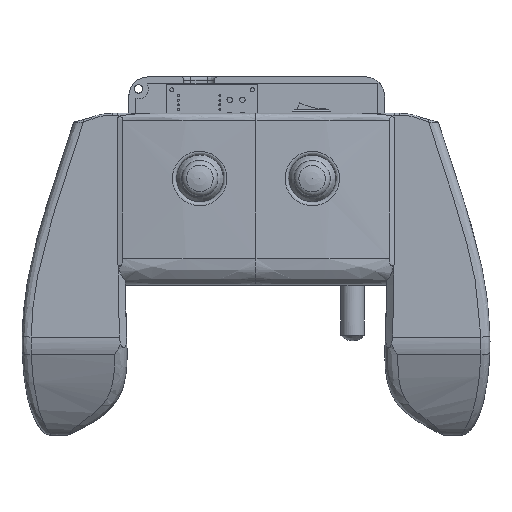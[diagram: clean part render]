
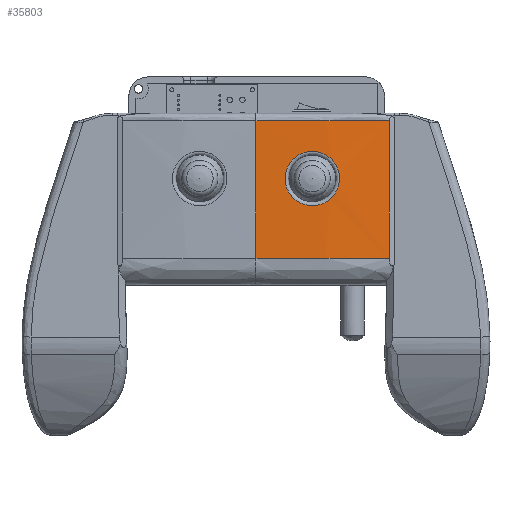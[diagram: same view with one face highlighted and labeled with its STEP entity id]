
A CAD part, front view. The second image highlights one B-rep face of the part: STEP entity #35803.
In plain terms, the highlighted free-form (B-spline) face has degree [3, 1] with [9, 2] control points.
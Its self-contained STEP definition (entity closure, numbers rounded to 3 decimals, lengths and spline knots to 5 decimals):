
#108=B_SPLINE_SURFACE_WITH_KNOTS('',3,1,((#65114,#65115),(#65116,#65117),
(#65118,#65119),(#65120,#65121),(#65122,#65123),(#65124,#65125),(#65126,
#65127),(#65128,#65129),(#65130,#65131)),.SURF_OF_LINEAR_EXTRUSION.,.F.,
 .F.,.F.,(4,1,1,1,1,1,4),(2,2),(0.59359,0.61899,0.6444,
0.6952,0.7968,0.8984,1.),(0.,1.),
 .UNSPECIFIED.);
#677=B_SPLINE_CURVE_WITH_KNOTS('',3,(#65132,#65133,#65134,#65135,#65136,
#65137,#65138,#65139,#65140,#65141,#65142,#65143,#65144,#65145,#65146,#65147,
#65148,#65149,#65150,#65151,#65152,#65153,#65154,#65155,#65156,#65157,#65158,
#65159,#65160,#65161,#65162,#65163,#65164,#65165,#65166),.UNSPECIFIED.,
 .T.,.F.,(1,1,1,1,1,1,1,1,1,1,1,1,1,1,1,1,1,1,1,1,1,1,1,1,1,1,1,1,1,1,1,
1,1,1,1,1,1,1,1),(-0.09704,-0.06579,-0.03289,
0.,0.02969,0.05938,0.09055,0.12172,0.15296,0.18421,
0.21546,0.24671,0.27796,0.30921,0.34046,
0.37171,0.40296,0.43421,0.46546,
0.49671,0.52796,0.55921,0.59046,
0.62171,0.65296,0.68421,0.71546,0.74671,
0.77796,0.80921,0.84046,0.87171,
0.90296,0.93421,0.96711,1.,1.02969,1.05938,
1.09055),.UNSPECIFIED.);
#678=B_SPLINE_CURVE_WITH_KNOTS('',3,(#65171,#65172,#65173,#65174,#65175,
#65176,#65177,#65178,#65179),.UNSPECIFIED.,.F.,.F.,(4,1,1,1,1,1,4),(0.,
0.0625,0.125,0.25,0.5,0.75,1.),.UNSPECIFIED.);
#679=B_SPLINE_CURVE_WITH_KNOTS('',3,(#65180,#65181,#65182,#65183,#65184,
#65185,#65186,#65187,#65188),.UNSPECIFIED.,.F.,.F.,(4,1,1,1,1,1,4),(0.,
0.25,0.5,0.75,0.875,0.9375,1.),.UNSPECIFIED.);
#10260=ORIENTED_EDGE('',*,*,#16647,.T.);
#10261=ORIENTED_EDGE('',*,*,#16648,.T.);
#10262=ORIENTED_EDGE('',*,*,#16649,.T.);
#10263=ORIENTED_EDGE('',*,*,#16597,.T.);
#10264=ORIENTED_EDGE('',*,*,#16650,.T.);
#16597=EDGE_CURVE('',#20400,#20401,#23621,.T.);
#16647=EDGE_CURVE('',#20442,#20442,#677,.T.);
#16648=EDGE_CURVE('',#20443,#20444,#23632,.T.);
#16649=EDGE_CURVE('',#20444,#20400,#678,.T.);
#16650=EDGE_CURVE('',#20401,#20443,#679,.T.);
#20400=VERTEX_POINT('',#63731);
#20401=VERTEX_POINT('',#63732);
#20442=VERTEX_POINT('',#65167);
#20443=VERTEX_POINT('',#65169);
#20444=VERTEX_POINT('',#65170);
#23621=LINE('',#63730,#26889);
#23632=LINE('',#65168,#26900);
#26889=VECTOR('',#48396,1.);
#26900=VECTOR('',#48417,1.);
#29699=EDGE_LOOP('',(#10260));
#29700=EDGE_LOOP('',(#10261,#10262,#10263,#10264));
#32343=FACE_BOUND('',#29699,.T.);
#32344=FACE_BOUND('',#29700,.T.);
#35803=ADVANCED_FACE('',(#32343,#32344),#108,.T.);
#48396=DIRECTION('',(0.,0.,-1.));
#48417=DIRECTION('',(0.,0.,1.));
#63730=CARTESIAN_POINT('',(0.,-0.033,0.095));
#63731=CARTESIAN_POINT('',(0.,-0.033,0.091));
#63732=CARTESIAN_POINT('',(0.,-0.033,0.015));
#65114=CARTESIAN_POINT('',(0.07353,-0.02887,0.091));
#65115=CARTESIAN_POINT('',(0.07353,-0.02887,0.015));
#65116=CARTESIAN_POINT('',(0.0722,-0.02911,0.091));
#65117=CARTESIAN_POINT('',(0.0722,-0.02911,0.015));
#65118=CARTESIAN_POINT('',(0.06952,-0.02958,0.091));
#65119=CARTESIAN_POINT('',(0.06952,-0.02958,0.015));
#65120=CARTESIAN_POINT('',(0.064,-0.03038,0.091));
#65121=CARTESIAN_POINT('',(0.064,-0.03038,0.015));
#65122=CARTESIAN_POINT('',(0.05398,-0.03147,0.091));
#65123=CARTESIAN_POINT('',(0.05398,-0.03147,0.015));
#65124=CARTESIAN_POINT('',(0.03879,-0.0323,0.091));
#65125=CARTESIAN_POINT('',(0.03879,-0.0323,0.015));
#65126=CARTESIAN_POINT('',(0.01962,-0.03266,0.091));
#65127=CARTESIAN_POINT('',(0.01962,-0.03266,0.015));
#65128=CARTESIAN_POINT('',(0.00654,-0.03284,0.091));
#65129=CARTESIAN_POINT('',(0.00654,-0.03284,0.015));
#65130=CARTESIAN_POINT('',(0.,-0.033,0.091));
#65131=CARTESIAN_POINT('',(0.,-0.033,0.015));
#65132=CARTESIAN_POINT('',(0.0279,-0.0325,0.07378));
#65133=CARTESIAN_POINT('',(0.0309,-0.03243,0.07409));
#65134=CARTESIAN_POINT('',(0.03381,-0.03235,0.07384));
#65135=CARTESIAN_POINT('',(0.03656,-0.03227,0.07305));
#65136=CARTESIAN_POINT('',(0.03918,-0.03218,0.07174));
#65137=CARTESIAN_POINT('',(0.04149,-0.03209,0.06993));
#65138=CARTESIAN_POINT('',(0.04345,-0.032,0.06768));
#65139=CARTESIAN_POINT('',(0.0449,-0.03193,0.06512));
#65140=CARTESIAN_POINT('',(0.04584,-0.03188,0.0623));
#65141=CARTESIAN_POINT('',(0.0462,-0.03186,0.05938));
#65142=CARTESIAN_POINT('',(0.04599,-0.03187,0.05642));
#65143=CARTESIAN_POINT('',(0.04519,-0.03191,0.05358));
#65144=CARTESIAN_POINT('',(0.04386,-0.03198,0.05092));
#65145=CARTESIAN_POINT('',(0.04202,-0.03206,0.0486));
#65146=CARTESIAN_POINT('',(0.03977,-0.03215,0.04665));
#65147=CARTESIAN_POINT('',(0.03719,-0.03225,0.0452));
#65148=CARTESIAN_POINT('',(0.03436,-0.03234,0.04426));
#65149=CARTESIAN_POINT('',(0.03142,-0.03241,0.04391));
#65150=CARTESIAN_POINT('',(0.02845,-0.03248,0.04412));
#65151=CARTESIAN_POINT('',(0.02561,-0.03254,0.04492));
#65152=CARTESIAN_POINT('',(0.02294,-0.03259,0.04625));
#65153=CARTESIAN_POINT('',(0.02062,-0.03263,0.04807));
#65154=CARTESIAN_POINT('',(0.01867,-0.03266,0.05032));
#65155=CARTESIAN_POINT('',(0.01723,-0.03268,0.05289));
#65156=CARTESIAN_POINT('',(0.01629,-0.0327,0.05571));
#65157=CARTESIAN_POINT('',(0.01594,-0.0327,0.05864));
#65158=CARTESIAN_POINT('',(0.01616,-0.0327,0.0616));
#65159=CARTESIAN_POINT('',(0.01695,-0.03269,0.06444));
#65160=CARTESIAN_POINT('',(0.01828,-0.03267,0.0671));
#65161=CARTESIAN_POINT('',(0.0201,-0.03264,0.06941));
#65162=CARTESIAN_POINT('',(0.02235,-0.0326,0.07136));
#65163=CARTESIAN_POINT('',(0.02496,-0.03255,0.07282));
#65164=CARTESIAN_POINT('',(0.0279,-0.0325,0.07378));
#65165=CARTESIAN_POINT('',(0.0309,-0.03243,0.07409));
#65166=CARTESIAN_POINT('',(0.03381,-0.03235,0.07384));
#65167=CARTESIAN_POINT('',(0.031,-0.03242,0.074));
#65168=CARTESIAN_POINT('',(0.07353,-0.02887,0.0475));
#65169=CARTESIAN_POINT('',(0.07353,-0.02887,0.015));
#65170=CARTESIAN_POINT('',(0.07353,-0.02887,0.091));
#65171=CARTESIAN_POINT('',(0.07353,-0.02887,0.091));
#65172=CARTESIAN_POINT('',(0.0722,-0.02911,0.091));
#65173=CARTESIAN_POINT('',(0.06952,-0.02958,0.091));
#65174=CARTESIAN_POINT('',(0.064,-0.03038,0.091));
#65175=CARTESIAN_POINT('',(0.05398,-0.03147,0.091));
#65176=CARTESIAN_POINT('',(0.03879,-0.0323,0.091));
#65177=CARTESIAN_POINT('',(0.01962,-0.03266,0.091));
#65178=CARTESIAN_POINT('',(0.00654,-0.03284,0.091));
#65179=CARTESIAN_POINT('',(0.,-0.033,0.091));
#65180=CARTESIAN_POINT('',(0.,-0.033,0.015));
#65181=CARTESIAN_POINT('',(0.00654,-0.03284,0.015));
#65182=CARTESIAN_POINT('',(0.01962,-0.03266,0.015));
#65183=CARTESIAN_POINT('',(0.03879,-0.0323,0.015));
#65184=CARTESIAN_POINT('',(0.05398,-0.03147,0.015));
#65185=CARTESIAN_POINT('',(0.064,-0.03038,0.015));
#65186=CARTESIAN_POINT('',(0.06952,-0.02958,0.015));
#65187=CARTESIAN_POINT('',(0.0722,-0.02911,0.015));
#65188=CARTESIAN_POINT('',(0.07353,-0.02887,0.015));
